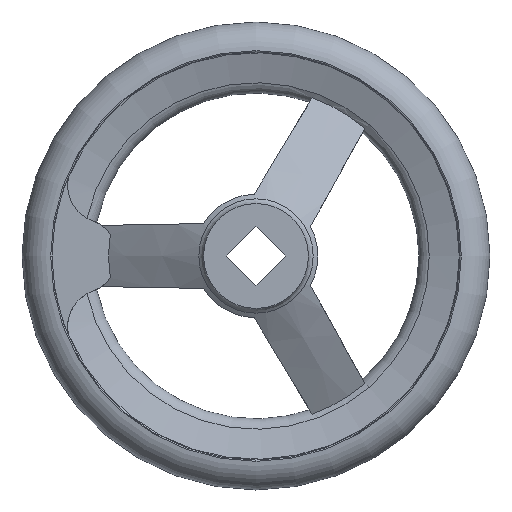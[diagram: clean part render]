
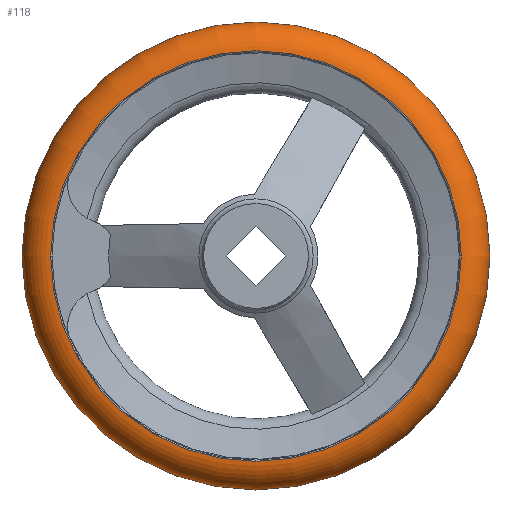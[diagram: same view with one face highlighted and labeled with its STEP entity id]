
A CAD part, left-side view. The second image highlights one B-rep face of the part: STEP entity #118.
In plain terms, the highlighted toroidal (fillet/blend) face has major radius 54.493 mm and minor radius 8.007 mm.
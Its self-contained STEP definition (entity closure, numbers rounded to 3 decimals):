
#118 = ADVANCED_FACE( '', ( #233, #234, #235 ), #236, .T. );
#233 = FACE_BOUND( '', #388, .T. );
#234 = FACE_OUTER_BOUND( '', #389, .T. );
#235 = FACE_OUTER_BOUND( '', #390, .T. );
#236 = TOROIDAL_SURFACE( '', #391, 54.493, 8.007 );
#388 = VERTEX_LOOP( '', #730 );
#389 = EDGE_LOOP( '', ( #731 ) );
#390 = EDGE_LOOP( '', ( #732 ) );
#391 = AXIS2_PLACEMENT_3D( '', #733, #734, #735 );
#730 = VERTEX_POINT( '', #876 );
#731 = ORIENTED_EDGE( '', *, *, #875, .T. );
#732 = ORIENTED_EDGE( '', *, *, #870, .F. );
#733 = CARTESIAN_POINT( '', ( 28., 0., 0. ) );
#734 = DIRECTION( '', ( 1., 0., 0. ) );
#735 = DIRECTION( '', ( 0., 1., 0. ) );
#870 = EDGE_CURVE( '', #1057, #1057, #1058, .T. );
#875 = EDGE_CURVE( '', #1066, #1066, #1067, .T. );
#876 = CARTESIAN_POINT( '', ( 28., 62.5, 0. ) );
#1057 = VERTEX_POINT( '', #1652 );
#1058 = CIRCLE( '', #1653, 54.833 );
#1066 = VERTEX_POINT( '', #1661 );
#1067 = CIRCLE( '', #1662, 54.833 );
#1652 = CARTESIAN_POINT( '', ( 36., 54.833, 0. ) );
#1653 = AXIS2_PLACEMENT_3D( '', #1808, #1809, #1810 );
#1661 = CARTESIAN_POINT( '', ( 20., 54.833, 0. ) );
#1662 = AXIS2_PLACEMENT_3D( '', #1823, #1824, #1825 );
#1808 = CARTESIAN_POINT( '', ( 36., 0., 0. ) );
#1809 = DIRECTION( '', ( 1., 0., 0. ) );
#1810 = DIRECTION( '', ( 0., 1., 0. ) );
#1823 = CARTESIAN_POINT( '', ( 20., 0., 0. ) );
#1824 = DIRECTION( '', ( 1., 0., 0. ) );
#1825 = DIRECTION( '', ( 0., 1., 0. ) );
